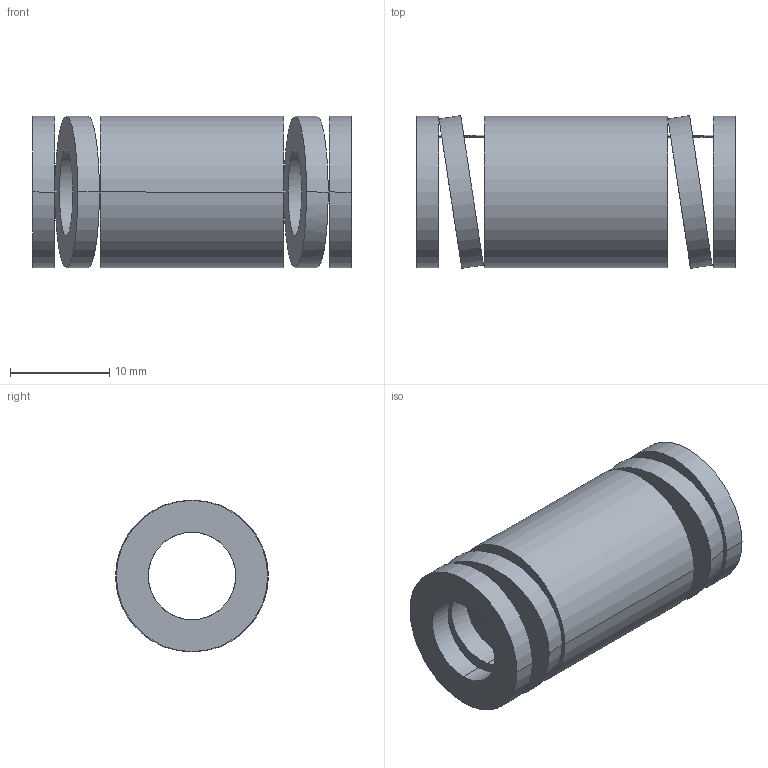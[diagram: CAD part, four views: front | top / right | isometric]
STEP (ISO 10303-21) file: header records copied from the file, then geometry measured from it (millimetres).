
FILE_DESCRIPTION(('CATIA V5 STEP Exchange'),'2;1');
FILE_NAME('C:\Users\Utente\Desktop\IO LAVORO\3D X SITO CF\X SITO\3D files 392B\392-B16-032.stp','2021-08-12T14:08:51+00:00',('none'),('none'),'CATIA Version 5 Release 20 GA (IN-10)','CATIA V5 STEP AP203','none');
FILE_SCHEMA(('CONFIG_CONTROL_DESIGN'));
Length unit declared in the file: millimetre
Products named in the file (1): 392-B16-032
Bounding box: 32 x 15.36 x 15.2 mm (x, y, z)
Volume: 3278.4 mm3; surface area: 3258.6 mm2
Topology: 1 solids, 1 shells, 38 faces, 92 edges, 64 vertices
Faces by surface type: cylinder 28, plane 10
Entity records: 1584 total; most frequent: CARTESIAN_POINT 695, ORIENTED_EDGE 184, DIRECTION 129, EDGE_CURVE 92, AXIS2_PLACEMENT_3D 64, VERTEX_POINT 64, EDGE_LOOP 56, B_SPLINE_CURVE_WITH_KNOTS 39
